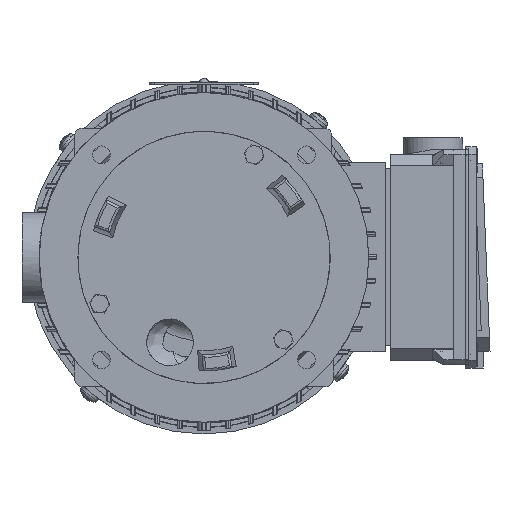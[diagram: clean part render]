
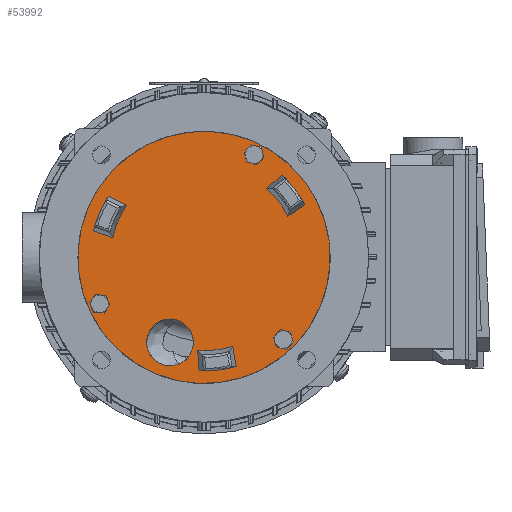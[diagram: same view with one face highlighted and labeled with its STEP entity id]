
A CAD part, front view. The second image highlights one B-rep face of the part: STEP entity #53992.
In plain terms, the highlighted planar face has unit normal (0, -1, 0).
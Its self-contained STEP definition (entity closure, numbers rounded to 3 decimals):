
#2877=FACE_BOUND('',#15857,.T.);
#2878=FACE_BOUND('',#15858,.T.);
#2879=FACE_BOUND('',#15859,.T.);
#2880=FACE_BOUND('',#15860,.T.);
#2881=FACE_BOUND('',#15861,.T.);
#2882=FACE_BOUND('',#15862,.T.);
#2883=FACE_BOUND('',#15863,.T.);
#4827=LINE('',#86036,#9144);
#4832=LINE('',#86120,#9149);
#4837=LINE('',#86211,#9154);
#4838=LINE('',#86225,#9155);
#4839=LINE('',#86230,#9156);
#4840=LINE('',#86239,#9157);
#9144=VECTOR('',#66560,1.);
#9149=VECTOR('',#66587,1.);
#9154=VECTOR('',#66620,1.);
#9155=VECTOR('',#66631,1.);
#9156=VECTOR('',#66638,1.);
#9157=VECTOR('',#66647,1.);
#13001=FACE_OUTER_BOUND('',#15856,.T.);
#15856=EDGE_LOOP('',(#39180));
#15857=EDGE_LOOP('',(#39181,#39182));
#15858=EDGE_LOOP('',(#39183,#39184));
#15859=EDGE_LOOP('',(#39185,#39186));
#15860=EDGE_LOOP('',(#39187,#39188,#39189,#39190));
#15861=EDGE_LOOP('',(#39191,#39192,#39193,#39194));
#15862=EDGE_LOOP('',(#39195,#39196,#39197,#39198));
#15863=EDGE_LOOP('',(#39199));
#18505=CIRCLE('',#57642,0.302);
#18506=CIRCLE('',#57643,0.302);
#18522=CIRCLE('',#57679,0.302);
#18523=CIRCLE('',#57680,0.302);
#18538=CIRCLE('',#57714,0.302);
#18539=CIRCLE('',#57715,0.302);
#18556=CIRCLE('',#57745,0.925);
#18567=CIRCLE('',#57760,5.);
#18576=CIRCLE('',#57780,3.702);
#18581=CIRCLE('',#57796,4.502);
#18586=CIRCLE('',#57810,4.502);
#18587=CIRCLE('',#57814,3.702);
#18588=CIRCLE('',#57818,4.502);
#18589=CIRCLE('',#57821,3.702);
#21753=VERTEX_POINT('',#85336);
#21754=VERTEX_POINT('',#85337);
#21782=VERTEX_POINT('',#85485);
#21783=VERTEX_POINT('',#85486);
#21810=VERTEX_POINT('',#85599);
#21811=VERTEX_POINT('',#85600);
#21835=VERTEX_POINT('',#85809);
#21845=VERTEX_POINT('',#85917);
#21857=VERTEX_POINT('',#86024);
#21858=VERTEX_POINT('',#86028);
#21859=VERTEX_POINT('',#86034);
#21870=VERTEX_POINT('',#86117);
#21871=VERTEX_POINT('',#86119);
#21872=VERTEX_POINT('',#86125);
#21883=VERTEX_POINT('',#86208);
#21884=VERTEX_POINT('',#86210);
#21885=VERTEX_POINT('',#86216);
#21886=VERTEX_POINT('',#86221);
#21887=VERTEX_POINT('',#86229);
#21888=VERTEX_POINT('',#86235);
#27975=EDGE_CURVE('',#21753,#21754,#18505,.T.);
#27976=EDGE_CURVE('',#21754,#21753,#18506,.T.);
#28020=EDGE_CURVE('',#21782,#21783,#18522,.T.);
#28021=EDGE_CURVE('',#21783,#21782,#18523,.T.);
#28063=EDGE_CURVE('',#21810,#21811,#18538,.T.);
#28064=EDGE_CURVE('',#21811,#21810,#18539,.T.);
#28105=EDGE_CURVE('',#21835,#21835,#18556,.T.);
#28123=EDGE_CURVE('',#21845,#21845,#18567,.T.);
#28145=EDGE_CURVE('',#21858,#21857,#18576,.T.);
#28148=EDGE_CURVE('',#21857,#21859,#4827,.T.);
#28164=EDGE_CURVE('',#21871,#21870,#4832,.T.);
#28167=EDGE_CURVE('',#21870,#21872,#18581,.T.);
#28183=EDGE_CURVE('',#21884,#21883,#4837,.T.);
#28186=EDGE_CURVE('',#21883,#21885,#18586,.T.);
#28188=EDGE_CURVE('',#21885,#21886,#4838,.T.);
#28189=EDGE_CURVE('',#21886,#21884,#18587,.T.);
#28190=EDGE_CURVE('',#21887,#21858,#4839,.T.);
#28192=EDGE_CURVE('',#21859,#21887,#18588,.T.);
#28194=EDGE_CURVE('',#21872,#21888,#4840,.T.);
#28195=EDGE_CURVE('',#21888,#21871,#18589,.T.);
#39180=ORIENTED_EDGE('',*,*,#28123,.T.);
#39181=ORIENTED_EDGE('',*,*,#27975,.T.);
#39182=ORIENTED_EDGE('',*,*,#27976,.T.);
#39183=ORIENTED_EDGE('',*,*,#28020,.T.);
#39184=ORIENTED_EDGE('',*,*,#28021,.T.);
#39185=ORIENTED_EDGE('',*,*,#28063,.T.);
#39186=ORIENTED_EDGE('',*,*,#28064,.T.);
#39187=ORIENTED_EDGE('',*,*,#28188,.T.);
#39188=ORIENTED_EDGE('',*,*,#28189,.T.);
#39189=ORIENTED_EDGE('',*,*,#28183,.T.);
#39190=ORIENTED_EDGE('',*,*,#28186,.T.);
#39191=ORIENTED_EDGE('',*,*,#28190,.T.);
#39192=ORIENTED_EDGE('',*,*,#28145,.T.);
#39193=ORIENTED_EDGE('',*,*,#28148,.T.);
#39194=ORIENTED_EDGE('',*,*,#28192,.T.);
#39195=ORIENTED_EDGE('',*,*,#28194,.T.);
#39196=ORIENTED_EDGE('',*,*,#28195,.T.);
#39197=ORIENTED_EDGE('',*,*,#28164,.T.);
#39198=ORIENTED_EDGE('',*,*,#28167,.T.);
#39199=ORIENTED_EDGE('',*,*,#28105,.T.);
#49031=PLANE('',#57822);
#53992=ADVANCED_FACE('',(#13001,#2877,#2878,#2879,#2880,#2881,#2882,#2883),
#49031,.F.);
#57642=AXIS2_PLACEMENT_3D('',#85338,#66225,#66226);
#57643=AXIS2_PLACEMENT_3D('',#85339,#66227,#66228);
#57679=AXIS2_PLACEMENT_3D('',#85487,#66314,#66315);
#57680=AXIS2_PLACEMENT_3D('',#85488,#66316,#66317);
#57714=AXIS2_PLACEMENT_3D('',#85601,#66399,#66400);
#57715=AXIS2_PLACEMENT_3D('',#85602,#66401,#66402);
#57745=AXIS2_PLACEMENT_3D('',#85811,#66477,#66478);
#57760=AXIS2_PLACEMENT_3D('',#85918,#66509,#66510);
#57780=AXIS2_PLACEMENT_3D('',#86029,#66554,#66555);
#57796=AXIS2_PLACEMENT_3D('',#86127,#66592,#66593);
#57810=AXIS2_PLACEMENT_3D('',#86218,#66625,#66626);
#57814=AXIS2_PLACEMENT_3D('',#86227,#66634,#66635);
#57818=AXIS2_PLACEMENT_3D('',#86233,#66643,#66644);
#57821=AXIS2_PLACEMENT_3D('',#86241,#66650,#66651);
#57822=AXIS2_PLACEMENT_3D('',#86242,#66652,#66653);
#66225=DIRECTION('center_axis',(0.,1.,0.));
#66226=DIRECTION('ref_axis',(-0.996,0.,0.085));
#66227=DIRECTION('center_axis',(0.,1.,0.));
#66228=DIRECTION('ref_axis',(-0.996,0.,0.085));
#66314=DIRECTION('center_axis',(0.,1.,0.));
#66315=DIRECTION('ref_axis',(-0.277,0.,0.961));
#66316=DIRECTION('center_axis',(0.,1.,0.));
#66317=DIRECTION('ref_axis',(-0.277,0.,0.961));
#66399=DIRECTION('center_axis',(0.,1.,0.));
#66400=DIRECTION('ref_axis',(-0.265,0.,0.964));
#66401=DIRECTION('center_axis',(0.,1.,0.));
#66402=DIRECTION('ref_axis',(-0.265,0.,0.964));
#66477=DIRECTION('center_axis',(0.,1.,0.));
#66478=DIRECTION('ref_axis',(-0.799,0.,-0.602));
#66509=DIRECTION('center_axis',(0.,-1.,0.));
#66510=DIRECTION('ref_axis',(-0.799,0.,-0.602));
#66554=DIRECTION('center_axis',(0.,-1.,0.));
#66555=DIRECTION('ref_axis',(0.83,0.,-0.558));
#66560=DIRECTION('',(-0.939,0.,0.345));
#66587=DIRECTION('',(0.171,0.,-0.985));
#66592=DIRECTION('center_axis',(0.,1.,0.));
#66593=DIRECTION('ref_axis',(-0.043,0.,
-0.999));
#66620=DIRECTION('',(0.768,0.,0.641));
#66625=DIRECTION('center_axis',(0.,1.,0.));
#66626=DIRECTION('ref_axis',(0.887,0.,0.462));
#66631=DIRECTION('',(-0.827,0.,-0.561));
#66634=DIRECTION('center_axis',(0.,-1.,0.));
#66635=DIRECTION('ref_axis',(-0.898,0.,-0.44));
#66638=DIRECTION('',(0.9,0.,-0.436));
#66643=DIRECTION('center_axis',(0.,1.,0.));
#66644=DIRECTION('ref_axis',(-0.844,0.,0.537));
#66647=DIRECTION('',(-0.072,0.,0.997));
#66650=DIRECTION('center_axis',(0.,-1.,0.));
#66651=DIRECTION('ref_axis',(0.068,0.,0.998));
#66652=DIRECTION('center_axis',(0.,1.,0.));
#66653=DIRECTION('ref_axis',(-0.602,0.,0.799));
#85336=CARTESIAN_POINT('',(-4.434,-17.045,-1.815));
#85337=CARTESIAN_POINT('',(-3.833,-17.045,-1.866));
#85338=CARTESIAN_POINT('Origin',(-4.134,-17.045,-1.84));
#85339=CARTESIAN_POINT('Origin',(-4.134,-17.045,-1.84));
#85485=CARTESIAN_POINT('',(3.06,-17.045,-2.965));
#85486=CARTESIAN_POINT('',(3.227,-17.045,-3.545));
#85487=CARTESIAN_POINT('Origin',(3.143,-17.045,-3.255));
#85488=CARTESIAN_POINT('Origin',(3.143,-17.045,-3.255));
#85599=CARTESIAN_POINT('',(1.904,-17.045,4.358));
#85600=CARTESIAN_POINT('',(2.064,-17.045,3.776));
#85601=CARTESIAN_POINT('Origin',(1.984,-17.045,4.067));
#85602=CARTESIAN_POINT('Origin',(1.984,-17.045,4.067));
#85809=CARTESIAN_POINT('',(-0.611,-17.045,-2.808));
#85811=CARTESIAN_POINT('Origin',(-1.349,-17.045,-3.365));
#85917=CARTESIAN_POINT('',(3.993,-17.045,3.009));
#85918=CARTESIAN_POINT('Origin',(0.,-17.045,
0.));
#86024=CARTESIAN_POINT('',(-3.619,-17.045,0.776));
#86028=CARTESIAN_POINT('',(-3.072,-17.045,2.065));
#86029=CARTESIAN_POINT('Origin',(0.,-17.045,
0.));
#86034=CARTESIAN_POINT('',(-4.376,-17.045,1.054));
#86036=CARTESIAN_POINT('',(-2.278,-17.045,0.283));
#86117=CARTESIAN_POINT('',(1.276,-17.045,-4.317));
#86119=CARTESIAN_POINT('',(1.138,-17.045,-3.522));
#86120=CARTESIAN_POINT('',(0.893,-17.045,-2.114));
#86125=CARTESIAN_POINT('',(-0.193,-17.045,-4.497));
#86127=CARTESIAN_POINT('Origin',(0.,-17.045,
0.));
#86208=CARTESIAN_POINT('',(3.101,-17.045,3.263));
#86210=CARTESIAN_POINT('',(2.482,-17.045,2.746));
#86211=CARTESIAN_POINT('',(1.384,-17.045,1.831));
#86216=CARTESIAN_POINT('',(3.992,-17.045,2.081));
#86218=CARTESIAN_POINT('Origin',(0.,-17.045,
0.));
#86221=CARTESIAN_POINT('',(3.324,-17.045,1.628));
#86225=CARTESIAN_POINT('',(1.808,-17.045,0.6));
#86227=CARTESIAN_POINT('Origin',(0.,-17.045,
0.));
#86229=CARTESIAN_POINT('',(-3.798,-17.045,2.416));
#86230=CARTESIAN_POINT('',(-1.423,-17.045,1.266));
#86233=CARTESIAN_POINT('Origin',(0.,-17.045,
0.));
#86235=CARTESIAN_POINT('',(-0.252,-17.045,-3.693));
#86239=CARTESIAN_POINT('',(-0.385,-17.045,-1.865));
#86241=CARTESIAN_POINT('Origin',(0.,-17.045,
0.));
#86242=CARTESIAN_POINT('Origin',(0.,-17.045,
0.));
